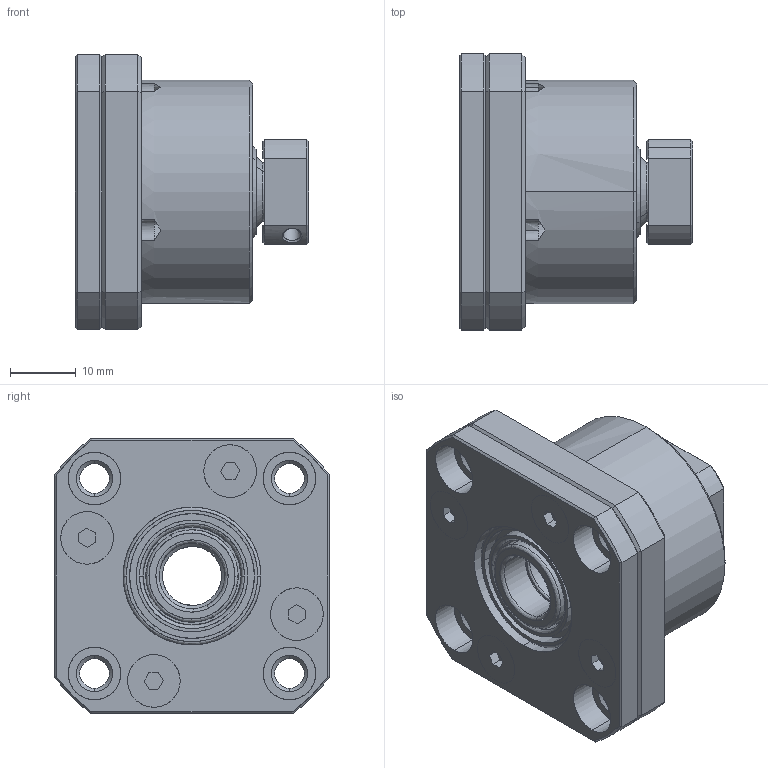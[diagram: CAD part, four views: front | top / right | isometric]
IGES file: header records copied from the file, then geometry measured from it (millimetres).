
Start section: SolidWorks IGES file using analytic representation for surfaces
Global section: file name: 4HC:\Users\117\Desktop\FK10組合B.IGS; native system: SolidWorks 2018; preprocessor: SolidWorks 2018; author: 117; date: 210929.092759; units: millimetre
Bounding box: 35.5 x 42 x 42 mm (x, y, z)
Surface area: 12760.2 mm2 (no closed solid volume)
Topology: 0 solids, 0 shells, 231 faces, 3297 edges, 3297 vertices
Faces by surface type: revolution 125, bspline 106
